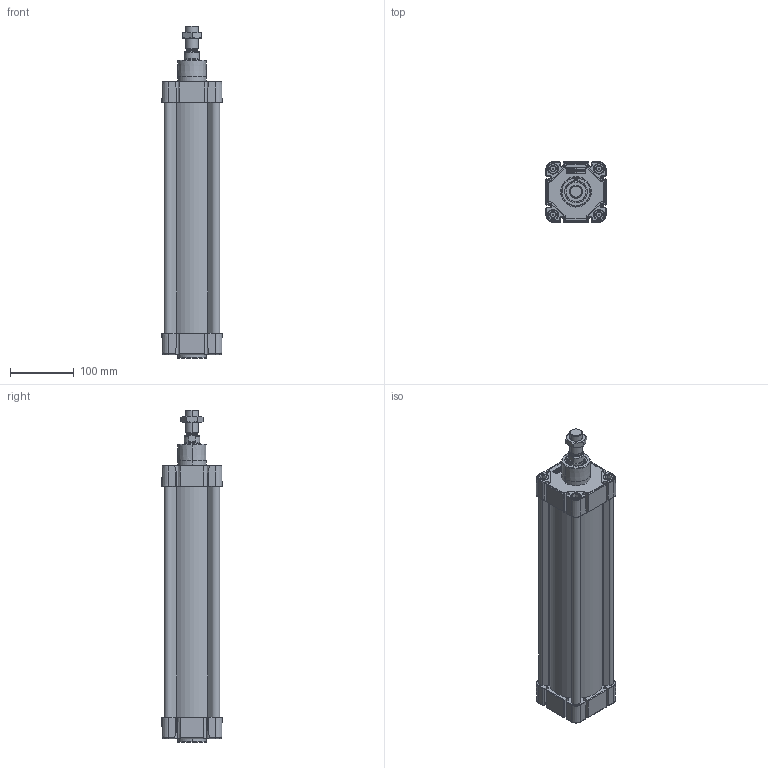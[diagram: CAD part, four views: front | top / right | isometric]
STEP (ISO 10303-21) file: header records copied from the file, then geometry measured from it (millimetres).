
FILE_DESCRIPTION (( 'STEP AP214' ), '1' );
FILE_NAME ('E11M20800300.STEP', '2021-10-27T12:20:32', ( '' ), ( '' ), 'SwSTEP 2.0', 'SolidWorks 2016', '' );
FILE_SCHEMA (( 'AUTOMOTIVE_DESIGN' ));
Length unit declared in the file: millimetre
Products named in the file (7): 21.753.0; 21.E01.0000_21.E01.0300; Pistone Ø80 ISO 15552; TA Ø80 ISO 15552 WEB; TP Ø80 ISO 15552 WEB; E11M20800300; 000.534.7_000.534.0300
Assembly tree (6 placements, depth 2):
  E11M20800300
    TP Ø80 ISO 15552 WEB
    TA Ø80 ISO 15552 WEB
    Pistone Ø80 ISO 15552
    21.E01.0000_21.E01.0300
    000.534.7_000.534.0300
    21.753.0
Bounding box: 93.95 x 93.97 x 519 mm (x, y, z)
Volume: 1301172.8 mm3; surface area: 558041.8 mm2
Topology: 17 solids, 18 shells, 2128 faces, 5468 edges, 3473 vertices
Faces by surface type: plane 874, cylinder 689, cone 262, bspline 214, torus 85, sphere 4
Entity records: 91998 total; most frequent: CARTESIAN_POINT 20658, ORIENTED_EDGE 10892, DIRECTION 10080, EDGE_CURVE 5446, AXIS2_PLACEMENT_3D 3595, VERTEX_POINT 3473, LINE 2890, VECTOR 2890
